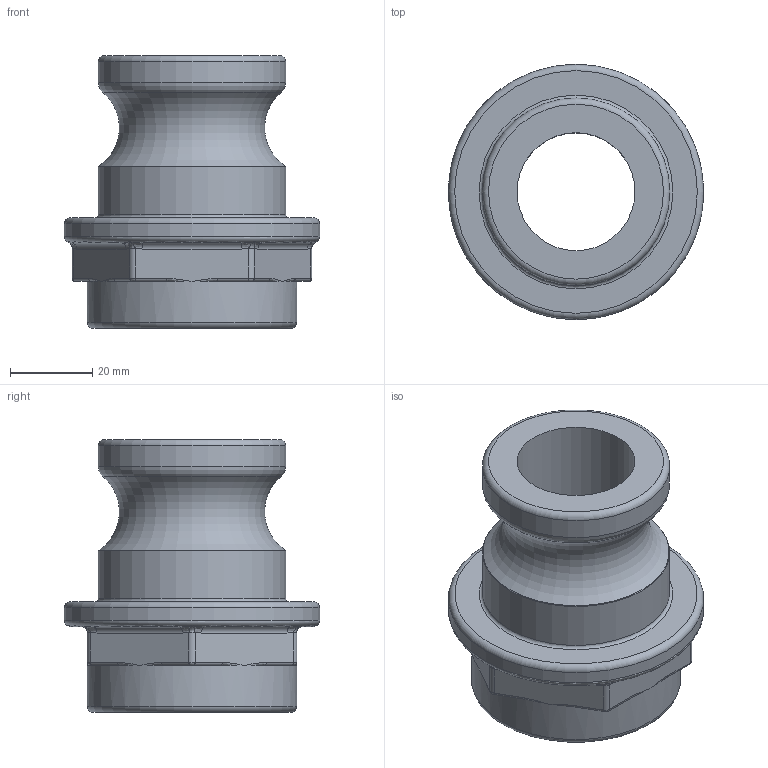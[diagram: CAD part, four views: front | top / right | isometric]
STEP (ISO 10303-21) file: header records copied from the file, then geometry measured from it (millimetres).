
FILE_DESCRIPTION(/* description */ ('Alibre Inc.'),/* implementation_level */ '2;1');
FILE_NAME(/* name */ 'export0',/* time_stamp */ '2016-02-21T11:14:52-05:00',/* author */ (''),/* organization */ (''),/* preprocessor_version */ 'ST-DEVELOPER v14',/* originating_system */ 'Alibre',/* authorisation */ '');
FILE_SCHEMA (('CONFIG_CONTROL_DESIGN'));
Length unit declared in the file: centimetre
Products named in the file (1): ID_1
Bounding box: 61.98 x 61.98 x 66.29 mm (x, y, z)
Volume: 61888 mm3; surface area: 22680 mm2
Topology: 1 solids, 1 shells, 122 faces, 310 edges, 173 vertices
Faces by surface type: bspline 33, cylinder 29, cone 25, plane 22, torus 13
Full cylindrical faces by diameter (mm): 28.651 x1, 45.517 x2, 50.8 x1, 61.976 x1
Entity records: 31729 total; most frequent: CARTESIAN_POINT 29225, ORIENTED_EDGE 550, DIRECTION 391, EDGE_CURVE 275, AXIS2_PLACEMENT_3D 173, VERTEX_POINT 170, EDGE_LOOP 139, FACE_BOUND 139
